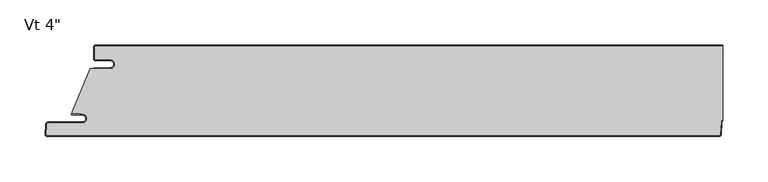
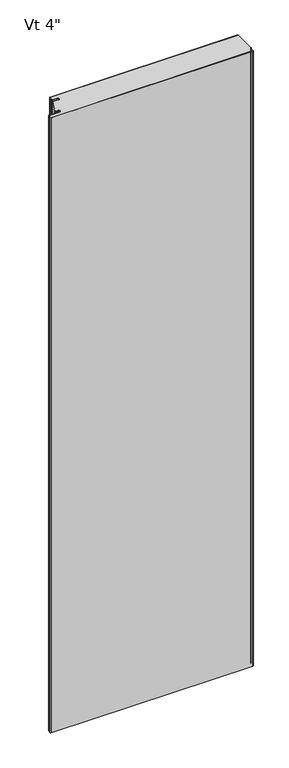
"""IFC4 building model written with IfcOpenShell, lengths in millimetres: plate geometry."""

from ifc_helpers import new_model, si_unit, point, frame_2d, origin, origin_with_axes, place, context, project, spatial, polyline, circle_curve, trimmed, segment, composite_curve, outline, extrude, source, transform, mapped, element, save


def plate_1d9811eb(model_context):
    return source(origin(), model_context, "Body", "SweptSolid", [
        extrude(outline(composite_curve([segment(polyline([(-329.9499998, -16.4625), (-345.8249998, -16.4625)]), True, "CONTINUOUS"), segment(trimmed(circle_curve(frame_2d((-345.8249998, -15.08125)), 1.38125), [point((-345.8249998, -16.4625))], [point((-347.2062498, -15.08125))], False, "CARTESIAN"), True, "CONTINUOUS"), segment(polyline([(-347.2062498, -15.08125), (-347.2062498, -2.38125)]), True, "CONTINUOUS"), segment(trimmed(circle_curve(frame_2d((-345.8249998, -2.38125)), 1.38125), [point((-347.2062498, -2.38125))], [point((-345.8249998, -1.0))], False, "CARTESIAN"), True, "CONTINUOUS"), segment(polyline([(-345.8249998, -1.0), (348.9999998, -1.0), (348.9999998, -83.191556)]), True, "CONTINUOUS"), segment(trimmed(circle_curve(frame_2d((349.5261348, -85.725)), 2.5875), [point((348.9999998, -83.191556))], [point((346.9421809, -85.5895807))], True, "CARTESIAN"), True, "CONTINUOUS"), segment(polyline([(346.9421809, -85.5895807), (346.2241179, -99.291039)]), True, "CONTINUOUS"), segment(trimmed(circle_curve(frame_2d((344.8447608, -99.21875)), 1.38125), [point((346.2241179, -99.291039))], [point((344.8447608, -100.6))], False, "CARTESIAN"), True, "CONTINUOUS"), segment(polyline([(344.8447608, -100.6), (-399.6862034, -100.6)]), True, "CONTINUOUS"), segment(trimmed(circle_curve(frame_2d((-399.6862034, -99.21875)), 1.38125), [point((-399.6862034, -100.6))], [point((-401.0655604, -99.146461))], False, "CARTESIAN"), True, "CONTINUOUS"), segment(polyline([(-401.0655604, -99.146461), (-400.483179, -88.033961)]), True, "CONTINUOUS"), segment(trimmed(circle_curve(frame_2d((-399.1038219, -88.10625)), 1.38125), [point((-400.483179, -88.033961))], [point((-399.1038219, -86.725))], False, "CARTESIAN"), True, "CONTINUOUS"), segment(polyline([(-399.1038219, -86.725), (-360.9205173, -86.725)]), True, "CONTINUOUS"), segment(trimmed(circle_curve(frame_2d((-360.9205173, -81.75625)), 4.96875), [point((-360.9205173, -86.725))], [point((-360.9205173, -76.7875))], True, "CARTESIAN"), True, "CONTINUOUS"), segment(polyline([(-360.9205173, -76.7875), (-362.5080173, -76.99375), (-362.5080173, -76.2), (-372.0187498, -76.2), (-372.0187498, -74.6157227), (-352.1323421, -26.4), (-329.9499998, -26.4)]), True, "CONTINUOUS"), segment(trimmed(circle_curve(frame_2d((-329.9499998, -21.43125)), 4.96875), [point((-329.9499998, -26.4))], [point((-329.9499998, -16.4625))], True, "CARTESIAN"), True, "CONTINUOUS")], self_intersect=False)), origin_with_axes(), (0.0, 0.0, 1.0), 2400.0),
        extrude(outline(composite_curve([segment(polyline([(-348.2062498, -25.4), (-329.9499998, -25.4)]), True, "CONTINUOUS"), segment(trimmed(circle_curve(frame_2d((-329.9499998, -21.43125)), 3.96875), [point((-329.9499998, -25.4))], [point((-329.9499998, -17.4625))], True, "CARTESIAN"), True, "CONTINUOUS"), segment(polyline([(-329.9499998, -17.4625), (-345.8249998, -17.4625)]), True, "CONTINUOUS"), segment(trimmed(circle_curve(frame_2d((-345.8249998, -15.08125)), 2.38125), [point((-345.8249998, -17.4625))], [point((-348.2062498, -15.08125))], False, "CARTESIAN"), True, "CONTINUOUS"), segment(polyline([(-348.2062498, -15.08125), (-348.2062498, -2.38125)]), True, "CONTINUOUS"), segment(trimmed(circle_curve(frame_2d((-345.8249998, -2.38125)), 2.38125), [point((-348.2062498, -2.38125))], [point((-345.8249998, 0.0))], False, "CARTESIAN"), True, "CONTINUOUS"), segment(polyline([(-345.8249998, 0.0), (348.9999998, 0.0), (348.9999998, -1.0), (-345.8249998, -1.0)]), True, "CONTINUOUS"), segment(trimmed(circle_curve(frame_2d((-345.8249998, -2.38125)), 1.38125), [point((-345.8249998, -1.0))], [point((-347.2062498, -2.38125))], True, "CARTESIAN"), True, "CONTINUOUS"), segment(polyline([(-347.2062498, -2.38125), (-347.2062498, -15.08125)]), True, "CONTINUOUS"), segment(trimmed(circle_curve(frame_2d((-345.8249998, -15.08125)), 1.38125), [point((-347.2062498, -15.08125))], [point((-345.8249998, -16.4625))], True, "CARTESIAN"), True, "CONTINUOUS"), segment(polyline([(-345.8249998, -16.4625), (-329.9499998, -16.4625)]), True, "CONTINUOUS"), segment(trimmed(circle_curve(frame_2d((-329.9499998, -21.43125)), 4.96875), [point((-329.9499998, -16.4625))], [point((-329.9499998, -26.4))], False, "CARTESIAN"), True, "CONTINUOUS"), segment(polyline([(-329.9499998, -26.4), (-348.2062498, -26.4), (-348.2062498, -25.4)]), True, "CONTINUOUS")], self_intersect=False)), origin_with_axes(), (0.0, 0.0, 1.0), 2400.0),
        extrude(outline(composite_curve([segment(polyline([(-372.2314548, -76.2), (-362.5080173, -76.2), (-362.5080173, -76.99375), (-360.9205173, -76.7875)]), True, "CONTINUOUS"), segment(trimmed(circle_curve(frame_2d((-360.9205173, -81.75625)), 4.96875), [point((-360.9205173, -76.7875))], [point((-360.9205173, -86.725))], False, "CARTESIAN"), True, "CONTINUOUS"), segment(polyline([(-360.9205173, -86.725), (-399.1038219, -86.725)]), True, "CONTINUOUS"), segment(trimmed(circle_curve(frame_2d((-399.1038219, -88.10625)), 1.38125), [point((-399.1038219, -86.725))], [point((-400.483179, -88.033961))], True, "CARTESIAN"), True, "CONTINUOUS"), segment(polyline([(-400.483179, -88.033961), (-401.0655604, -99.146461)]), True, "CONTINUOUS"), segment(trimmed(circle_curve(frame_2d((-399.6862034, -99.21875)), 1.38125), [point((-401.0655604, -99.146461))], [point((-399.6862034, -100.6))], True, "CARTESIAN"), True, "CONTINUOUS"), segment(polyline([(-399.6862034, -100.6), (344.8447608, -100.6)]), True, "CONTINUOUS"), segment(trimmed(circle_curve(frame_2d((344.8447608, -99.21875)), 1.38125), [point((344.8447608, -100.6))], [point((346.2241179, -99.291039))], True, "CARTESIAN"), True, "CONTINUOUS"), segment(polyline([(346.2241179, -99.291039), (346.9421809, -85.5895807)]), True, "CONTINUOUS"), segment(trimmed(circle_curve(frame_2d((349.5261348, -85.725)), 2.5875), [point((346.9421809, -85.5895807))], [point((348.9999998, -83.191556))], False, "CARTESIAN"), True, "CONTINUOUS"), segment(polyline([(348.9999998, -83.191556), (348.9999998, -84.2272222)]), True, "CONTINUOUS"), segment(trimmed(circle_curve(frame_2d((349.5261348, -85.725)), 1.5875), [point((348.9999998, -84.2272222))], [point((347.9408104, -85.6419167))], True, "CARTESIAN"), True, "CONTINUOUS"), segment(polyline([(347.9408104, -85.6419167), (347.2227474, -99.343375)]), True, "CONTINUOUS"), segment(trimmed(circle_curve(frame_2d((344.8447608, -99.21875)), 2.38125), [point((347.2227474, -99.343375))], [point((344.8447608, -101.6))], False, "CARTESIAN"), True, "CONTINUOUS"), segment(polyline([(344.8447608, -101.6), (-399.6862034, -101.6)]), True, "CONTINUOUS"), segment(trimmed(circle_curve(frame_2d((-399.6862034, -99.21875)), 2.38125), [point((-399.6862034, -101.6))], [point((-402.0641899, -99.094125))], False, "CARTESIAN"), True, "CONTINUOUS"), segment(polyline([(-402.0641899, -99.094125), (-401.4818085, -87.981625)]), True, "CONTINUOUS"), segment(trimmed(circle_curve(frame_2d((-399.1038219, -88.10625)), 2.38125), [point((-401.4818085, -87.981625))], [point((-399.1038219, -85.725))], False, "CARTESIAN"), True, "CONTINUOUS"), segment(polyline([(-399.1038219, -85.725), (-360.9205173, -85.725)]), True, "CONTINUOUS"), segment(trimmed(circle_curve(frame_2d((-360.9205173, -81.75625)), 3.96875), [point((-360.9205173, -85.725))], [point((-360.9205173, -77.7875))], True, "CARTESIAN"), True, "CONTINUOUS"), segment(polyline([(-360.9205173, -77.7875), (-372.2314548, -77.7875)]), True, "CONTINUOUS"), segment(trimmed(circle_curve(frame_2d((-372.2314548, -76.99375)), 0.79375), [point((-372.2314548, -77.7875))], [point((-372.2314548, -76.2))], False, "CARTESIAN"), True, "CONTINUOUS")], self_intersect=False)), origin_with_axes(), (0.0, 0.0, 1.0), 2400.0),
    ])


if __name__ == "__main__":
    model = new_model("IFC4")
    model_context = context("Model", 3, world=origin())
    ifc_project = project(units=[si_unit("LENGTHUNIT", "METRE", prefix="MILLI")], contexts=[model_context])
    site = spatial("IfcSite", under=ifc_project)
    building = spatial("IfcBuilding", under=site)
    placement = place(None, origin())
    plate_shape = plate_1d9811eb(model_context)
    element("IfcPlate", 1, ObjectType="KIP-30-DWHR-R19-CP-Vt-F : Vt 4\"", at=placement, inside=building, context=model_context, shape_type="MappedRepresentation", body=[
        mapped(plate_shape, transform((0.0, 0.0, 0.0), x_axis=(1.0, 0.0, 0.0), y_axis=(0.0, 1.0, 0.0), z_axis=(0.0, 0.0, 1.0))),
    ])
    save(model, "model.ifc")
